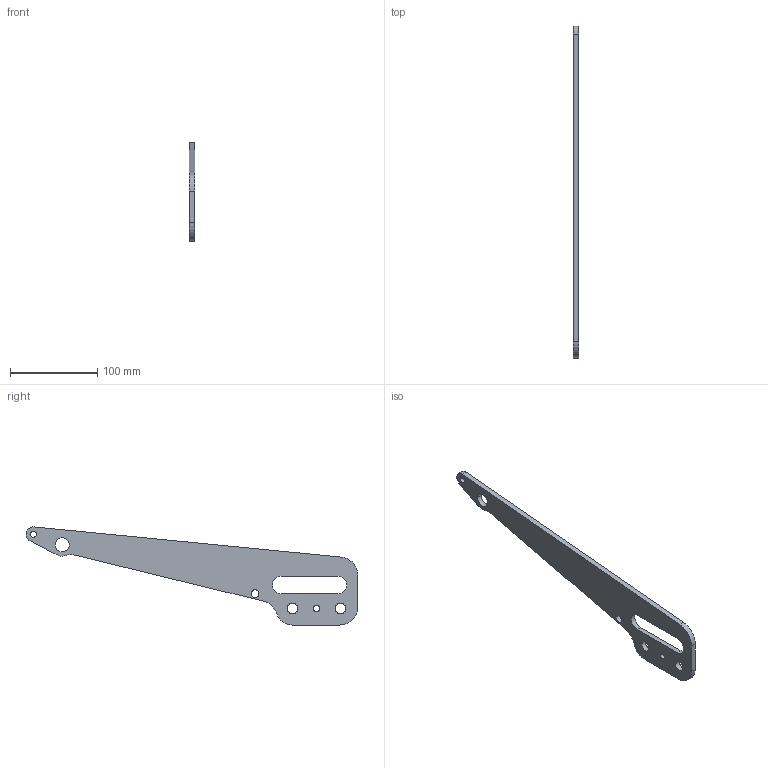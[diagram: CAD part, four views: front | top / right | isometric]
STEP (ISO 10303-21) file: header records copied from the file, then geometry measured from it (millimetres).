
FILE_DESCRIPTION(('CATIA V5 STEP Exchange'),'2;1');
FILE_NAME('U:\TP Construction Tirfor\Corrigé\flasque_origine.stp','2008-02-01T07:45:58+00:00',('none'),('none'),'CATIA Version 5 Release 17 (IN-10)','CATIA V5 STEP AP203','none');
FILE_SCHEMA(('CONFIG_CONTROL_DESIGN'));
Length unit declared in the file: millimetre
Products named in the file (1): flasque1
Bounding box: 6 x 380.49 x 112.48 mm (x, y, z)
Volume: 100798 mm3; surface area: 41075.8 mm2
Topology: 1 solids, 1 shells, 30 faces, 84 edges, 56 vertices
Faces by surface type: cylinder 21, plane 9
Entity records: 988 total; most frequent: ORIENTED_EDGE 168, CARTESIAN_POINT 165, DIRECTION 132, EDGE_CURVE 84, AXIS2_PLACEMENT_3D 67, VERTEX_POINT 56, EDGE_LOOP 44, VECTOR 42
